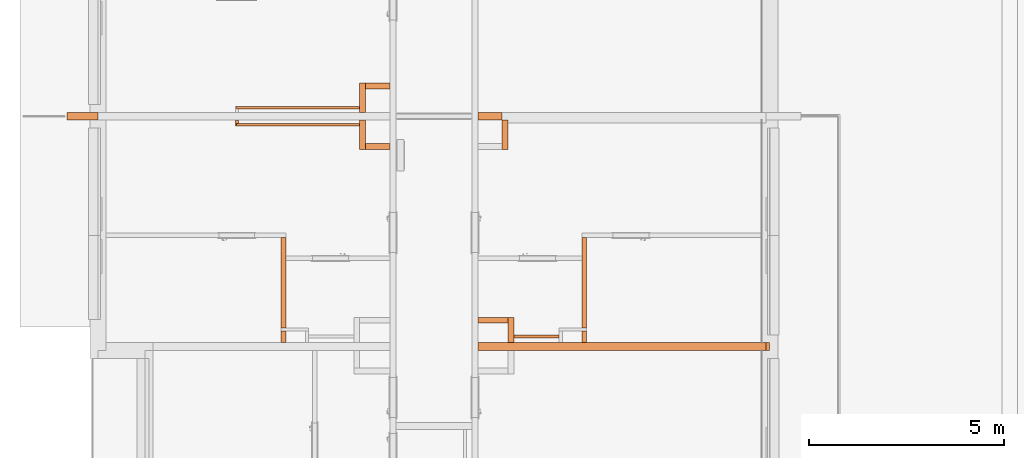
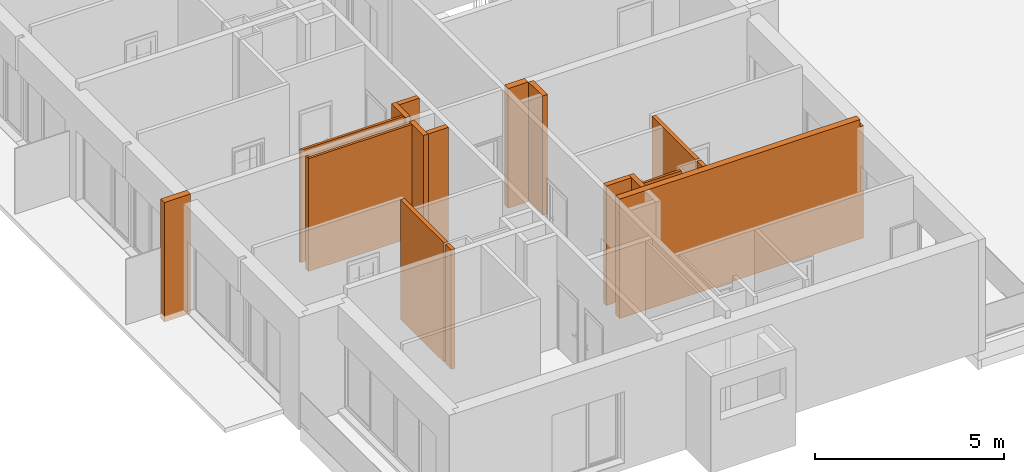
# One storey, part 28 of 46: 16 proxies.
"""IFC2X3 building model written with IfcOpenShell, lengths in millimetres."""

from ifc_helpers import new_model, entity, si_unit, converted_unit, derived_unit, money_unit, direction, frame, origin_with_axes, place, context, subcontext, project, spatial, faceted_brep, material, material_list, type_object, element, save


model = new_model("IFC2X3")

# Units and contexts
model_context = context("Model", 3, precision=0.01, world=origin_with_axes(), true_north=direction((0.34421633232, 0.938890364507)))
body_context = subcontext(model_context, "Body", "Model", "MODEL_VIEW")
ifc_project = project(units=[si_unit("LENGTHUNIT", "METRE", prefix="MILLI"), si_unit("AREAUNIT", "SQUARE_METRE"), si_unit("VOLUMEUNIT", "CUBIC_METRE"), converted_unit("PLANEANGLEUNIT", "DEGREE", entity("IfcPlaneAngleMeasure", 0.0174532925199), si_unit("PLANEANGLEUNIT", "RADIAN"), dimensions=[0, 0, 0, 0, 0, 0, 0]), si_unit("SOLIDANGLEUNIT", "STERADIAN"), money_unit("USD"), converted_unit("TIMEUNIT", "Year", entity("IfcTimeMeasure", 31556926.0), si_unit("TIMEUNIT", "SECOND"), dimensions=[0, 0, 1, 0, 0, 0, 0]), si_unit("MASSUNIT", "GRAM", prefix="KILO"), si_unit("THERMODYNAMICTEMPERATUREUNIT", "DEGREE_CELSIUS"), si_unit("LUMINOUSINTENSITYUNIT", "LUMEN"), si_unit("ENERGYUNIT", "JOULE", prefix="MEGA"), derived_unit("THERMALCONDUCTANCEUNIT", [(si_unit("POWERUNIT", "WATT"), 1), (si_unit("LENGTHUNIT", "METRE"), -1), (si_unit("THERMODYNAMICTEMPERATUREUNIT", "KELVIN"), -1)]), derived_unit("SPECIFICHEATCAPACITYUNIT", [(si_unit("ENERGYUNIT", "JOULE"), 1), (si_unit("MASSUNIT", "GRAM", prefix="KILO"), -1), (si_unit("THERMODYNAMICTEMPERATUREUNIT", "KELVIN"), -1)]), derived_unit("MASSDENSITYUNIT", [(si_unit("MASSUNIT", "GRAM", prefix="KILO"), 1), (si_unit("VOLUMEUNIT", "CUBIC_METRE"), -1)])], contexts=[model_context])

# Site, building, storey
site_placement = place(None, origin_with_axes())
site = spatial("IfcSite", under=ifc_project, at=site_placement, Name="USTRONIE MORSKIE", CompositionType="ELEMENT")
building_placement = place(site_placement, origin_with_axes())
building = spatial("IfcBuilding", under=site, at=building_placement, Name="Budynek", CompositionType="ELEMENT")
storey_placement = place(building_placement, origin_with_axes())
storey = spatial("IfcBuildingStorey", under=building, at=storey_placement, Name="PARTER", CompositionType="ELEMENT", Elevation=0.0)

# Proxies
ifc_material_1 = material(Name="Bloczki silikatowe")
building_element_proxy_type_1 = type_object("IfcBuildingElementProxyType", Name="Bloczki silikatowe 120", PredefinedType="NOTDEFINED")
proxy_1_placement = place(storey_placement, frame((362417.920919, 715101.199036, -230.0), z_axis=(0.0, 0.0, 1.0), x_axis=(0.0, 1.0, 0.0)))
element("IfcBuildingElementProxy", 1, at=proxy_1_placement, inside=storey, type_object=building_element_proxy_type_1, material=ifc_material_1, Name="SW-04", context=body_context, shape_type="Brep", body=[
    faceted_brep([(400.01915523, -60.0, 3870.0), (400.01915523, 60.0, 3870.0), (100.0, 60.0, 3870.0), (100.0, -60.0, 3870.0), (400.01915523, -60.0, 0.0), (400.01915523, 60.0, 0.0), (100.0, 60.0, 0.0), (100.0, -60.0, 0.0)], [[[0, 1, 2, 3]], [[1, 0, 4, 5]], [[1, 5, 6, 2]], [[7, 3, 2, 6]], [[4, 0, 3, 7]], [[5, 4, 7, 6]]]),
    faceted_brep([(2790.01935038, -60.0, 3870.0), (2790.01935038, 60.0, 3870.0), (480.01915523, 60.0, 3870.0), (480.01915523, -60.0, 3870.0), (2790.01935038, -60.0, 0.0), (2790.01935038, 60.0, 0.0), (480.01915523, 60.0, 0.0), (480.01915523, -60.0, 0.0)], [[[0, 1, 2, 3]], [[1, 0, 4, 5]], [[1, 5, 6, 2]], [[7, 3, 2, 6]], [[4, 0, 3, 7]], [[5, 4, 7, 6]]]),
])
proxy_2_placement = place(storey_placement, frame((354717.920919, 715101.199036, -230.0), z_axis=(0.0, 0.0, 1.0), x_axis=(0.0, 1.0, 0.0)))
element("IfcBuildingElementProxy", 2, at=proxy_2_placement, inside=storey, type_object=building_element_proxy_type_1, material=ifc_material_1, Name="SW-04", context=body_context, shape_type="Brep", body=[
    faceted_brep([(2790.01935038, 60.0, 0.0), (2790.01935038, -60.0, 0.0), (480.01915523, -60.0, 0.0), (480.01915523, 60.0, 0.0), (2790.01935038, 60.0, 3870.0), (2790.01935038, -60.0, 3870.0), (480.01915523, -60.0, 3870.0), (480.01915523, 60.0, 3870.0)], [[[0, 1, 2, 3]], [[1, 0, 4, 5]], [[1, 5, 6, 2]], [[7, 3, 2, 6]], [[4, 0, 3, 7]], [[5, 4, 7, 6]]]),
    faceted_brep([(400.01915523, 60.0, 0.0), (400.01915523, -60.0, 0.0), (100.0, -60.0, 0.0), (100.0, 60.0, 0.0), (400.01915523, 60.0, 3870.0), (400.01915523, -60.0, 3870.0), (100.0, -60.0, 3870.0), (100.0, 60.0, 3870.0)], [[[0, 1, 2, 3]], [[1, 0, 4, 5]], [[1, 5, 6, 2]], [[7, 3, 2, 6]], [[4, 0, 3, 7]], [[5, 4, 7, 6]]]),
])
ifc_material_2 = material(Name="Płyta GK")
ifc_material_3 = material(Name="-Pustka powietrzna")
ifc_material_list_1 = material_list([ifc_material_2, ifc_material_2, ifc_material_3])
building_element_proxy_type_2 = type_object("IfcBuildingElementProxyType", Name="330-SD GK 2-warstwy 75", PredefinedType="NOTDEFINED")
proxy_3_placement = place(storey_placement, frame((360542.92182, 715371.197725, -180.0), z_axis=(0.0, 0.0, 1.0), x_axis=(1.0, 0.0, 0.0)))
element("IfcBuildingElementProxy", 3, at=proxy_3_placement, inside=storey, type_object=building_element_proxy_type_2, material=ifc_material_list_1, Name="Ściana-009", context=body_context, shape_type="Brep", body=[
    faceted_brep([(1234.99909883, 12.5, 165.0), (1234.99909883, 25.0, 165.0), (1234.99909883, 25.0, 3820.0), (1234.99909883, 12.5, 3820.0), (75.0, 25.0, 165.0), (75.0, 12.5, 165.0), (75.0, 25.0, 3820.0), (75.0, 12.5, 3820.0)], [[[0, 1, 2, 3]], [[4, 1, 0, 5]], [[1, 4, 6, 2]], [[3, 2, 6, 7]], [[5, 0, 3, 7]], [[4, 5, 7, 6]]]),
    faceted_brep([(1234.99909883, 0.0, 165.0), (1234.99909883, 12.5, 165.0), (1234.99909883, 12.5, 3820.0), (1234.99909883, 0.0, 3820.0), (75.0, 12.5, 165.0), (75.0, 0.0, 165.0), (75.0, 12.5, 3820.0), (75.0, 0.0, 3820.0)], [[[0, 1, 2, 3]], [[4, 1, 0, 5]], [[1, 4, 6, 2]], [[3, 2, 6, 7]], [[5, 0, 3, 7]], [[4, 5, 7, 6]]]),
    faceted_brep([(1234.99909883, -50.0, 180.0), (1234.99909883, 0.0, 180.0), (1234.99909883, 0.0, 3820.0), (1234.99909883, -50.0, 3820.0), (75.0, 0.0, 180.0), (75.0, -50.0, 180.0), (75.0, 0.0, 3820.0), (75.0, -50.0, 3820.0)], [[[0, 1, 2, 3]], [[4, 1, 0, 5]], [[1, 4, 6, 2]], [[3, 2, 6, 7]], [[5, 0, 3, 7]], [[4, 5, 7, 6]]]),
])
ifc_material_list_2 = material_list([ifc_material_3, ifc_material_2, ifc_material_2])
proxy_4_placement = place(storey_placement, frame((353517.920919, 721001.199036, -180.0), z_axis=(0.0, 0.0, 1.0), x_axis=(0.0, -1.0, 0.0)))
element("IfcBuildingElementProxy", 4, at=proxy_4_placement, inside=storey, type_object=building_element_proxy_type_2, material=ifc_material_list_2, Name="Ściana-009", context=body_context, shape_type="Brep", body=[
    faceted_brep([(180.0, 50.0, 180.0), (100.0, 50.0, 180.0), (100.0, 50.0, 3819.99995232), (180.0, 50.0, 3820.0), (100.0, 0.0, 180.0), (180.0, 0.0, 180.0), (100.0, 0.0, 3819.99995232), (180.0, 0.0, 3820.0)], [[[0, 1, 2, 3]], [[4, 1, 0, 5]], [[1, 4, 6, 2]], [[3, 2, 6, 7]], [[5, 0, 3, 7]], [[4, 5, 7, 6]]]),
    faceted_brep([(230.0, 0.0, 165.0), (100.0, 0.0, 165.0), (100.0, 0.0, 3819.99995232), (230.0, 0.0, 3820.0), (100.0, -12.5, 165.0), (230.0, -12.5, 165.0), (100.0, -12.5, 3819.99995232), (230.0, -12.5, 3820.0)], [[[0, 1, 2, 3]], [[4, 1, 0, 5]], [[1, 4, 6, 2]], [[3, 2, 6, 7]], [[5, 0, 3, 7]], [[4, 5, 7, 6]]]),
    faceted_brep([(242.5, -12.5, 165.0), (100.0, -12.5, 165.0), (100.0, -12.5, 3819.99995232), (242.5, -12.5, 3820.0), (100.0, -25.0, 165.0), (242.5, -25.0, 165.0), (100.0, -25.0, 3819.99995232), (242.5, -25.0, 3820.0)], [[[0, 1, 2, 3]], [[4, 1, 0, 5]], [[1, 4, 6, 2]], [[3, 2, 6, 7]], [[5, 0, 3, 7]], [[4, 5, 7, 6]]]),
])
proxy_5_placement = place(storey_placement, frame((356817.920919, 721231.199036, -180.0), z_axis=(0.0, 0.0, 1.0), x_axis=(-1.0, 0.0, 0.0)))
element("IfcBuildingElementProxy", 5, at=proxy_5_placement, inside=storey, type_object=building_element_proxy_type_2, material=ifc_material_list_2, Name="Ściana-009", context=body_context, shape_type="Brep", body=[
    faceted_brep([(150.0, 50.0, 180.0), (150.0, 0.0, 180.0), (150.0, 0.0, 3820.0), (150.0, 50.0, 3820.0), (3300.0, 0.0, 180.0), (3300.0, 50.0, 180.0), (3300.0, 0.0, 3820.0), (3300.0, 50.0, 3820.0)], [[[0, 1, 2, 3]], [[4, 1, 0, 5]], [[1, 4, 6, 2]], [[6, 7, 3, 2]], [[5, 0, 3, 7]], [[4, 5, 7, 6]]]),
    faceted_brep([(150.0, 0.0, 165.0), (150.0, -12.5, 165.0), (150.0, -12.5, 3820.0), (150.0, 0.0, 3820.0), (3312.5, -12.5, 165.0), (3312.5, 0.0, 165.0), (3312.5, -12.5, 3820.0), (3312.5, 0.0, 3820.0)], [[[0, 1, 2, 3]], [[4, 1, 0, 5]], [[1, 4, 6, 2]], [[6, 7, 3, 2]], [[5, 0, 3, 7]], [[4, 5, 7, 6]]]),
    faceted_brep([(150.0, -12.5, 165.0), (150.0, -25.0, 165.0), (150.0, -25.0, 3820.0), (150.0, -12.5, 3820.0), (3325.0, -25.0, 165.0), (3325.0, -12.5, 165.0), (3325.0, -25.0, 3820.0), (3325.0, -12.5, 3820.0)], [[[0, 1, 2, 3]], [[4, 1, 0, 5]], [[1, 4, 6, 2]], [[6, 7, 3, 2]], [[5, 0, 3, 7]], [[4, 5, 7, 6]]]),
])
proxy_6_placement = place(storey_placement, frame((356817.920919, 720771.199036, -180.0), z_axis=(0.0, 0.0, 1.0), x_axis=(-1.0, 0.0, 0.0)))
element("IfcBuildingElementProxy", 6, at=proxy_6_placement, inside=storey, type_object=building_element_proxy_type_2, material=ifc_material_list_1, Name="Ściana-009", context=body_context, shape_type="Brep", body=[
    faceted_brep([(150.0, 25.0, 165.0), (150.0, 12.5, 165.0), (150.0, 12.5, 3820.0), (150.0, 25.0, 3820.0), (3325.0, 12.5, 165.0), (3325.0, 25.0, 165.0), (3325.0, 12.5, 3820.0), (3325.0, 25.0, 3820.0)], [[[0, 1, 2, 3]], [[4, 1, 0, 5]], [[1, 4, 6, 2]], [[6, 7, 3, 2]], [[5, 0, 3, 7]], [[4, 5, 7, 6]]]),
    faceted_brep([(150.0, 12.5, 165.0), (150.0, 0.0, 165.0), (150.0, 0.0, 3820.0), (150.0, 12.5, 3820.0), (3312.5, 0.0, 165.0), (3312.5, 12.5, 165.0), (3312.5, 0.0, 3820.0), (3312.5, 12.5, 3820.0)], [[[0, 1, 2, 3]], [[4, 1, 0, 5]], [[1, 4, 6, 2]], [[6, 7, 3, 2]], [[5, 0, 3, 7]], [[4, 5, 7, 6]]]),
    faceted_brep([(150.0, 0.0, 180.0), (150.0, -50.0, 180.0), (150.0, -50.0, 3820.0), (150.0, 0.0, 3820.0), (3300.0, -50.0, 180.0), (3300.0, 0.0, 180.0), (3300.0, -50.0, 3820.0), (3300.0, 0.0, 3820.0)], [[[0, 1, 2, 3]], [[4, 1, 0, 5]], [[1, 4, 6, 2]], [[6, 7, 3, 2]], [[5, 0, 3, 7]], [[4, 5, 7, 6]]]),
])
building_element_proxy_type_3 = type_object("IfcBuildingElementProxyType", Name="Bloczki silikatowe 150", PredefinedType="NOTDEFINED")
proxy_7_placement = place(storey_placement, frame((356817.920919, 720301.199036, -230.0), z_axis=(0.0, 0.0, 1.0), x_axis=(1.0, 0.0, 0.0)))
element("IfcBuildingElementProxy", 7, at=proxy_7_placement, inside=storey, type_object=building_element_proxy_type_3, material=ifc_material_1, Name="SW-03", context=body_context, shape_type="Brep", body=[
    faceted_brep([(620.0, -150.0, 3870.0), (620.0, 0.0, 3870.0), (0.0, 0.0, 3870.0), (0.0, -150.0, 3870.0), (620.0, -150.0, 0.0), (620.0, 0.0, 0.0), (0.0, 0.0, 0.0), (0.0, -150.0, 0.0)], [[[0, 1, 2, 3]], [[1, 0, 4, 5]], [[1, 5, 6, 2]], [[7, 3, 2, 6]], [[4, 0, 3, 7]], [[5, 4, 7, 6]]]),
])
proxy_8_placement = place(storey_placement, frame((360542.92182, 715776.199481, -230.0), z_axis=(0.0, 0.0, 1.0), x_axis=(-1.0, 0.0, 0.0)))
element("IfcBuildingElementProxy", 8, at=proxy_8_placement, inside=storey, type_object=building_element_proxy_type_3, material=ifc_material_1, Name="Ściana-009", context=body_context, shape_type="Brep", body=[
    faceted_brep([(844.998255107, -75.0, 3870.0), (844.998255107, 75.0, 3870.0), (75.0, 75.0, 3870.0), (75.0, -75.0, 3870.0), (844.998255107, -75.0, 0.0), (844.998255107, 75.0, 0.0), (75.0, 75.0, 0.0), (75.0, -75.0, 0.0)], [[[0, 1, 2, 3]], [[1, 0, 4, 5]], [[1, 5, 6, 2]], [[7, 3, 2, 6]], [[4, 0, 3, 7]], [[5, 4, 7, 6]]]),
])
proxy_9_placement = place(storey_placement, frame((360317.920919, 721001.199074, -230.0), z_axis=(0.0, 0.0, 1.0), x_axis=(0.0, -1.0, 0.0)))
element("IfcBuildingElementProxy", 9, at=proxy_9_placement, inside=storey, type_object=building_element_proxy_type_3, material=ifc_material_1, Name="SW-03", context=body_context, shape_type="Brep", body=[
    faceted_brep([(850.000037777, 150.0, 0.0), (99.9952200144, 150.0, 0.0), (99.995218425, 150.0, 3870.0), (850.000037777, 150.0, 3870.0), (850.000037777, 0.0, 0.0), (99.995254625, 0.0, 0.0), (99.995254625, 0.0, 3870.0), (850.000037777, 0.0, 3870.0)], [[[0, 1, 2, 3]], [[4, 5, 1, 0]], [[5, 6, 2, 1]], [[3, 2, 6, 7]], [[4, 0, 3, 7]], [[7, 6, 5, 4]]]),
])
proxy_10_placement = place(storey_placement, frame((360542.92182, 715101.199032, -230.0), z_axis=(0.0, 0.0, 1.0), x_axis=(0.0, 1.0, 0.0)))
element("IfcBuildingElementProxy", 10, at=proxy_10_placement, inside=storey, type_object=building_element_proxy_type_3, material=ifc_material_1, Name="Ściana-009", context=body_context, shape_type="Brep", body=[
    faceted_brep([(750.000448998, 75.0, 3870.0), (100.000004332, 75.0, 3870.0), (100.000004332, -75.0, 3870.0), (750.000448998, -75.0, 3870.0), (750.000448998, 75.0, 0.0), (100.000004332, 75.0, 0.0), (100.000004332, -75.0, 0.0), (750.000448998, -75.0, 0.0)], [[[0, 1, 2, 3]], [[4, 5, 1, 0]], [[5, 6, 2, 1]], [[3, 2, 6, 7]], [[7, 4, 0, 3]], [[7, 6, 5, 4]]]),
])
proxy_11_placement = place(storey_placement, frame((356817.920919, 721701.199036, -230.0), z_axis=(0.0, 0.0, 1.0), x_axis=(1.0, 0.0, 0.0)))
element("IfcBuildingElementProxy", 11, at=proxy_11_placement, inside=storey, type_object=building_element_proxy_type_3, material=ifc_material_1, Name="SW-03", context=body_context, shape_type="Brep", body=[
    faceted_brep([(620.0, 150.0, 0.0), (620.0, 0.0, 0.0), (0.0, 0.0, 0.0), (0.0, 150.0, 0.0), (620.0, 150.0, 3870.0), (620.0, 0.0, 3870.0), (0.0, 0.0, 3870.0), (0.0, 150.0, 3870.0)], [[[0, 1, 2, 3]], [[1, 0, 4, 5]], [[1, 5, 6, 2]], [[7, 3, 2, 6]], [[4, 0, 3, 7]], [[5, 4, 7, 6]]]),
])
proxy_12_placement = place(storey_placement, frame((356817.920919, 721001.199074, -230.0), z_axis=(0.0, 0.0, 1.0), x_axis=(0.0, -1.0, 0.0)))
element("IfcBuildingElementProxy", 12, at=proxy_12_placement, inside=storey, type_object=building_element_proxy_type_3, material=ifc_material_1, Name="SW-03", context=body_context, shape_type="Brep", body=[
    faceted_brep([(850.000037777, 0.0, 0.0), (100.000037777, 0.0, 0.0), (100.000037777, 0.0, 3869.99997616), (850.000037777, 0.0, 3870.0), (850.000037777, -150.0, 0.0), (100.000037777, -150.0, 0.0), (100.000037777, -150.0, 3869.99997616), (850.000037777, -150.0, 3870.0)], [[[0, 1, 2, 3]], [[4, 5, 1, 0]], [[5, 6, 2, 1]], [[3, 2, 6, 7]], [[4, 0, 3, 7]], [[7, 6, 5, 4]]]),
])
proxy_13_placement = place(storey_placement, frame((356817.920919, 721001.198998, -230.0), z_axis=(0.0, 0.0, 1.0), x_axis=(0.0, 1.0, 0.0)))
element("IfcBuildingElementProxy", 13, at=proxy_13_placement, inside=storey, type_object=building_element_proxy_type_3, material=ifc_material_1, Name="SW-03", context=body_context, shape_type="Brep", body=[
    faceted_brep([(850.000037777, 150.0, 0.0), (850.000037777, 0.0, 0.0), (100.000037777, 0.0, 0.0), (100.000037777, 150.0, 0.0), (850.000037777, 150.0, 3870.0), (850.000037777, 0.0, 3870.0), (100.000037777, 0.0, 3870.0), (100.000037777, 150.0, 3870.0)], [[[0, 1, 2, 3]], [[1, 0, 4, 5]], [[1, 5, 6, 2]], [[7, 3, 2, 6]], [[4, 0, 3, 7]], [[5, 4, 7, 6]]]),
])
ifc_material_4 = material(Name="Beton konstrukcyjny B25")
building_element_proxy_type_4 = type_object("IfcBuildingElementProxyType", Name="Beton konstrukcyjny B25 200", PredefinedType="NOTDEFINED")
proxy_14_placement = place(storey_placement, frame((349167.88964, 721001.199036, -230.0), z_axis=(0.0, 0.0, 1.0), x_axis=(1.0, 0.0, 0.0)))
element("IfcBuildingElementProxy", 14, at=proxy_14_placement, inside=storey, type_object=building_element_proxy_type_4, material=ifc_material_4, Name="SW-01", context=body_context, shape_type="Brep", body=[
    faceted_brep([(800.031278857, 100.0, 0.0), (800.031278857, 100.0, 3870.0), (800.031278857, -100.0, 3870.0), (800.031278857, -100.0, 0.0), (0.0, 100.0, 3870.0), (0.0, 100.0, 0.0), (0.0, -100.0, 3870.0), (0.0, -100.0, 0.0)], [[[0, 1, 2, 3]], [[4, 1, 0, 5]], [[4, 6, 2, 1]], [[6, 7, 3, 2]], [[7, 5, 0, 3]], [[5, 7, 6, 4]]]),
])
proxy_15_placement = place(storey_placement, frame((367067.920919, 715101.199036, -230.0), z_axis=(0.0, 0.0, 1.0), x_axis=(-1.0, 0.0, 0.0)))
element("IfcBuildingElementProxy", 15, at=proxy_15_placement, inside=storey, type_object=building_element_proxy_type_4, material=ifc_material_4, Name="SW-01", context=body_context, shape_type="Brep", body=[
    faceted_brep([(0.0, 100.0, 3630.0), (-100.0, 100.0, 3630.0), (-100.0, -100.0, 3630.0), (0.0, -100.0, 3630.0), (7369.99735394, 100.0, 0.0), (-100.0, 100.0, 0.0), (0.0, 100.0, 3870.0), (7369.99735394, 100.0, 3870.0), (-100.0, -100.0, 0.0), (7369.99735394, -100.0, 0.0), (7369.99735394, -100.0, 3870.0), (0.0, -100.0, 3870.0)], [[[0, 1, 2, 3]], [[4, 5, 1, 0, 6, 7]], [[5, 8, 2, 1]], [[3, 2, 8, 9, 10, 11]], [[6, 0, 3, 11]], [[9, 8, 5, 4]], [[10, 7, 6, 11]], [[7, 10, 9, 4]]]),
])
proxy_16_placement = place(storey_placement, frame((359617.923565, 721001.203819, -230.0), z_axis=(0.0, 0.0, 1.0), x_axis=(0.999999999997, 2.32715773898e-06, 0.0)))
element("IfcBuildingElementProxy", 16, at=proxy_16_placement, inside=storey, type_object=building_element_proxy_type_4, material=ifc_material_4, Name="SW-01", context=body_context, shape_type="Brep", body=[
    faceted_brep([(699.997121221, -100.001629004, 0.0), (79.999767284, -100.000186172, 0.0), (80.0002327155, 99.9998138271, 0.0), (699.997586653, 99.9983709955, 0.0), (699.997121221, -100.001629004, 3870.0), (79.999767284, -100.000186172, 3870.0), (80.0002327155, 99.9998138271, 3870.0), (699.997586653, 99.9983709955, 3870.0)], [[[0, 1, 2, 3]], [[4, 5, 1, 0]], [[6, 2, 1, 5]], [[3, 2, 6, 7]], [[7, 4, 0, 3]], [[7, 6, 5, 4]]]),
])

save(model, "model.ifc")
